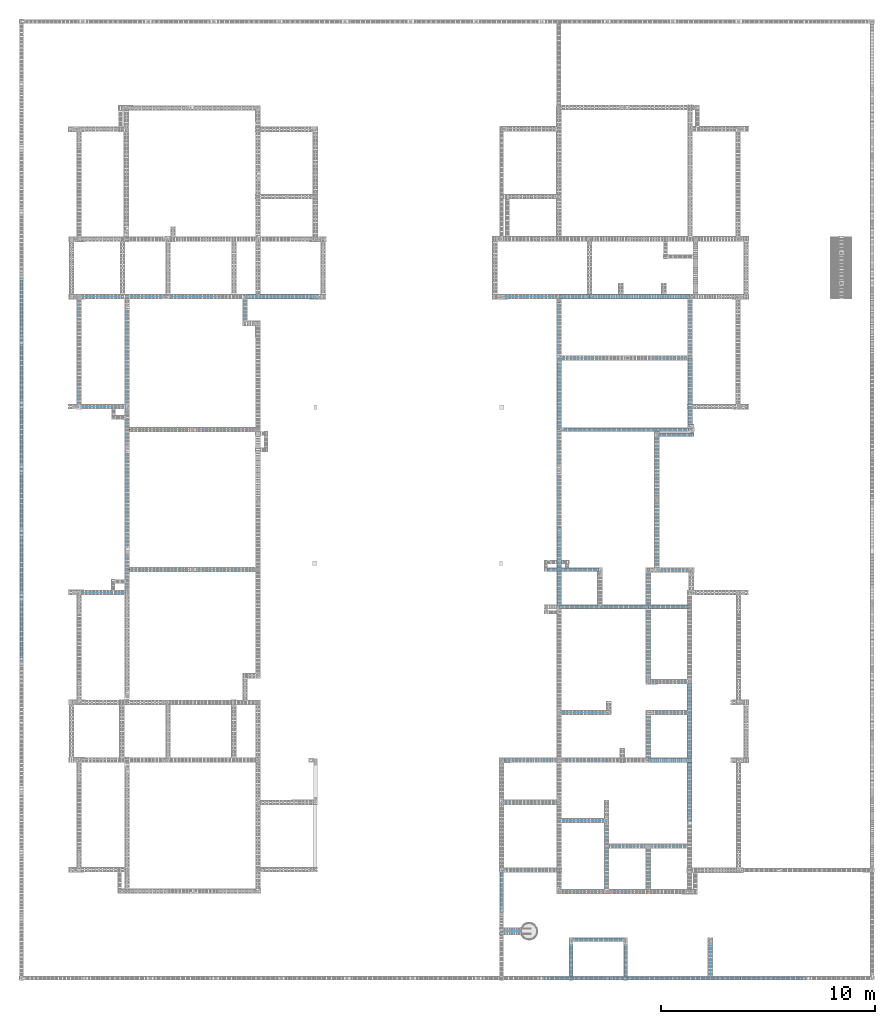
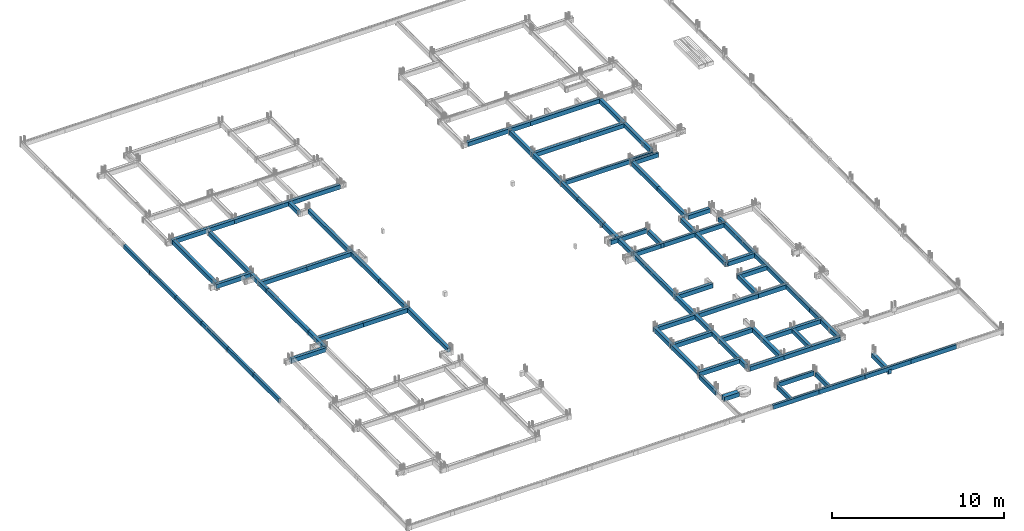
# One storey, part 3 of 150: 84 beams.
"""IFC4 building model written with IfcOpenShell, lengths in centimetres."""

from ifc_helpers import new_model, si_unit, derived_unit, frame, origin_with_axes, origin_2d_with_axis, place, context, project, spatial, rectangle, extrude, material, element, save


model = new_model("IFC4")

# Units and contexts
model_context = context("Model", 3, precision=1e-05, world=origin_with_axes(), identifier="Body")
ifc_project = project(units=[si_unit("LENGTHUNIT", "METRE", prefix="CENTI"), si_unit("VOLUMEUNIT", "CUBIC_METRE"), si_unit("AREAUNIT", "SQUARE_METRE"), si_unit("POWERUNIT", "WATT"), si_unit("LUMINOUSFLUXUNIT", "LUMEN"), si_unit("ELECTRICCURRENTUNIT", "AMPERE"), si_unit("PRESSUREUNIT", "PASCAL", prefix="KILO"), si_unit("MASSUNIT", "GRAM", prefix="KILO"), si_unit("PLANEANGLEUNIT", "RADIAN"), derived_unit("VOLUMETRICFLOWRATEUNIT", [(si_unit("LENGTHUNIT", "METRE"), 3), (si_unit("TIMEUNIT", "SECOND"), -1)])], contexts=[model_context])

# Site, building, storey
site_placement = place(None, frame((-4000.0, 0.0, 0.0), z_axis=(0.0, 0.0, 1.0), x_axis=(1.0, 0.0, 0.0)))
site = spatial("IfcSite", under=ifc_project, at=site_placement, Name="PADRÃO")
building_placement = place(site_placement, frame((0.0, 0.0, -14.0)))
building = spatial("IfcBuilding", under=site, at=building_placement, Name="CRECHE PRÉ-ESCOLA TIPO 2")
placement = place(building_placement, origin_with_axes())
storey_placement = place(placement, frame((0.0, 0.0, 30.0), z_axis=(0.0, 0.0, 1.0), x_axis=(1.0, 0.0, 0.0)))
storey = spatial("IfcBuildingStorey", under=building, at=storey_placement, Name="VIGA BALDRAME", CompositionType="ELEMENT", Elevation=16.0)

# Beams
ifc_material = material(Name="Concreto")
beam_1_placement = place(storey_placement, frame((476.0, 3200.02, 0.0), z_axis=(0.0, 0.0, 1.0), x_axis=(1.0, 0.0, 0.0)))
element("IfcBeam", 1, at=beam_1_placement, inside=storey, material=ifc_material, Name="V113", context=model_context, shape_type="SolidModel", body=[
    extrude(rectangle(XDim=20.0, YDim=30.0, at=origin_2d_with_axis()), frame((-209.0, 0.0, -15.0), z_axis=(1.0, 0.0, 0.0), x_axis=(0.0, 1.0, 0.0)), (0.0, 0.0, 1.0), 418.0),
])
beam_2_placement = place(storey_placement, frame((1227.125, 3200.02, 0.0), z_axis=(0.0, 0.0, 1.0), x_axis=(1.0, 0.0, 0.0)))
element("IfcBeam", 2, at=beam_2_placement, inside=storey, material=ifc_material, Name="V113", context=model_context, shape_type="SolidModel", body=[
    extrude(rectangle(XDim=20.0, YDim=30.0, at=origin_2d_with_axis()), frame((-166.125, 0.0, -15.0), z_axis=(1.0, 0.0, 0.0), x_axis=(0.0, 1.0, 0.0)), (0.0, 0.0, 1.0), 332.25),
])
beam_3_placement = place(storey_placement, frame((873.0, 3200.02, 0.0), z_axis=(0.0, 0.0, 1.0), x_axis=(1.0, 0.0, 0.0)))
element("IfcBeam", 3, at=beam_3_placement, inside=storey, material=ifc_material, Name="V113", context=model_context, shape_type="SolidModel", body=[
    extrude(rectangle(XDim=20.0, YDim=30.0, at=origin_2d_with_axis()), frame((-188.0, 0.0, -15.0), z_axis=(1.0, 0.0, 0.0), x_axis=(0.0, 1.0, 0.0)), (0.0, 0.0, 1.0), 376.0),
])
beam_4_placement = place(storey_placement, frame((2386.13, 3200.02, 0.0), z_axis=(0.0, 0.0, 1.0), x_axis=(1.0, 0.0, 0.0)))
element("IfcBeam", 4, at=beam_4_placement, inside=storey, material=ifc_material, Name="V114", context=model_context, shape_type="SolidModel", body=[
    extrude(rectangle(XDim=20.0, YDim=30.0, at=origin_2d_with_axis()), frame((-137.37, 0.0, -15.0), z_axis=(1.0, 0.0, 0.0), x_axis=(0.0, 1.0, 0.0)), (0.0, 0.0, 1.0), 274.74),
])
beam_5_placement = place(storey_placement, frame((2595.75, 3200.02, 0.0), z_axis=(0.0, 0.0, 1.0), x_axis=(1.0, 0.0, 0.0)))
element("IfcBeam", 5, at=beam_5_placement, inside=storey, material=ifc_material, Name="V114", context=model_context, shape_type="SolidModel", body=[
    extrude(rectangle(XDim=20.0, YDim=30.0, at=origin_2d_with_axis()), frame((-72.25, 0.0, -15.0), z_axis=(1.0, 0.0, 0.0), x_axis=(0.0, 1.0, 0.0)), (0.0, 0.0, 1.0), 144.5),
])
beam_6_placement = place(storey_placement, frame((2903.25, 3200.02, 0.0), z_axis=(0.0, 0.0, 1.0), x_axis=(1.0, 0.0, 0.0)))
element("IfcBeam", 6, at=beam_6_placement, inside=storey, material=ifc_material, Name="V114", context=model_context, shape_type="SolidModel", body=[
    extrude(rectangle(XDim=20.0, YDim=30.0, at=origin_2d_with_axis()), frame((-235.25, 0.0, -15.0), z_axis=(1.0, 0.0, 0.0), x_axis=(0.0, 1.0, 0.0)), (0.0, 0.0, 1.0), 470.5),
])
beam_7_placement = place(storey_placement, frame((2989.75, 2912.52, 0.0), z_axis=(0.0, 0.0, 1.0), x_axis=(1.0, 0.0, 0.0)))
element("IfcBeam", 7, at=beam_7_placement, inside=storey, material=ifc_material, Name="V116", context=model_context, shape_type="SolidModel", body=[
    extrude(rectangle(XDim=20.0, YDim=30.0, at=origin_2d_with_axis()), frame((-155.75, 0.0, -15.0), z_axis=(1.0, 0.0, 0.0), x_axis=(0.0, 1.0, 0.0)), (0.0, 0.0, 1.0), 311.5),
])
beam_8_placement = place(storey_placement, frame((2682.25, 2912.52, 0.0), z_axis=(0.0, 0.0, 1.0), x_axis=(1.0, 0.0, 0.0)))
element("IfcBeam", 8, at=beam_8_placement, inside=storey, material=ifc_material, Name="V116", context=model_context, shape_type="SolidModel", body=[
    extrude(rectangle(XDim=20.0, YDim=30.0, at=origin_2d_with_axis()), frame((-151.75, 0.0, -15.0), z_axis=(1.0, 0.0, 0.0), x_axis=(0.0, 1.0, 0.0)), (0.0, 0.0, 1.0), 303.5),
])
beam_9_placement = place(storey_placement, frame((382.345, 2685.01, 0.0), z_axis=(0.0, 0.0, 1.0), x_axis=(1.0, 0.0, 0.0)))
element("IfcBeam", 9, at=beam_9_placement, inside=storey, material=ifc_material, Name="V117", context=model_context, shape_type="SolidModel", body=[
    extrude(rectangle(XDim=20.0, YDim=30.0, at=origin_2d_with_axis()), frame((-114.345, 0.0, -15.0), z_axis=(1.0, 0.0, 0.0), x_axis=(0.0, 1.0, 0.0)), (0.0, 0.0, 1.0), 228.69),
])
beam_10_placement = place(storey_placement, frame((657.54, 2577.5, 0.0), z_axis=(0.0, 0.0, 1.0), x_axis=(1.0, 0.0, 0.0)))
element("IfcBeam", 10, at=beam_10_placement, inside=storey, material=ifc_material, Name="V120", context=model_context, shape_type="SolidModel", body=[
    extrude(rectangle(XDim=20.0, YDim=30.0, at=origin_2d_with_axis()), frame((-153.85, 0.0, -15.0), z_axis=(1.0, 0.0, 0.0), x_axis=(0.0, 1.0, 0.0)), (0.0, 0.0, 1.0), 307.7),
])
beam_11_placement = place(storey_placement, frame((968.055, 2577.5, 0.0), z_axis=(0.0, 0.0, 1.0), x_axis=(1.0, 0.0, 0.0)))
element("IfcBeam", 11, at=beam_11_placement, inside=storey, material=ifc_material, Name="V120", context=model_context, shape_type="SolidModel", body=[
    extrude(rectangle(XDim=20.0, YDim=30.0, at=origin_2d_with_axis()), frame((-156.665, 0.0, -15.0), z_axis=(1.0, 0.0, 0.0), x_axis=(0.0, 1.0, 0.0)), (0.0, 0.0, 1.0), 313.33),
])
beam_12_placement = place(storey_placement, frame((3056.26, 2577.52, 0.0), z_axis=(0.0, 0.0, 1.0), x_axis=(1.0, 0.0, 0.0)))
element("IfcBeam", 12, at=beam_12_placement, inside=storey, material=ifc_material, Name="V122", context=model_context, shape_type="SolidModel", body=[
    extrude(rectangle(XDim=15.0, YDim=30.0, at=origin_2d_with_axis()), frame((-76.76, 0.0, -15.0), z_axis=(1.0, 0.0, 0.0), x_axis=(0.0, 1.0, 0.0)), (0.0, 0.0, 1.0), 153.52),
])
beam_13_placement = place(storey_placement, frame((2763.0, 2577.52, 0.0), z_axis=(0.0, 0.0, 1.0), x_axis=(1.0, 0.0, 0.0)))
element("IfcBeam", 13, at=beam_13_placement, inside=storey, material=ifc_material, Name="V122", context=model_context, shape_type="SolidModel", body=[
    extrude(rectangle(XDim=15.0, YDim=30.0, at=origin_2d_with_axis()), frame((-216.5, 0.0, -15.0), z_axis=(1.0, 0.0, 0.0), x_axis=(0.0, 1.0, 0.0)), (0.0, 0.0, 1.0), 433.0),
])
beam_14_placement = place(storey_placement, frame((3070.76, 2553.52, 0.0), z_axis=(0.0, 0.0, 1.0), x_axis=(1.0, 0.0, 0.0)))
element("IfcBeam", 14, at=beam_14_placement, inside=storey, material=ifc_material, Name="V123", context=model_context, shape_type="SolidModel", body=[
    extrude(rectangle(XDim=14.0, YDim=30.0, at=origin_2d_with_axis()), frame((-84.26, 0.0, -15.0), z_axis=(1.0, 0.0, 0.0), x_axis=(0.0, 1.0, 0.0)), (0.0, 0.0, 1.0), 168.52),
])
beam_15_placement = place(storey_placement, frame((968.055, 1922.5, 0.0), z_axis=(0.0, 0.0, 1.0), x_axis=(1.0, 0.0, 0.0)))
element("IfcBeam", 15, at=beam_15_placement, inside=storey, material=ifc_material, Name="V125", context=model_context, shape_type="SolidModel", body=[
    extrude(rectangle(XDim=20.0, YDim=30.0, at=origin_2d_with_axis()), frame((-156.665, 0.0, -15.0), z_axis=(1.0, 0.0, 0.0), x_axis=(0.0, 1.0, 0.0)), (0.0, 0.0, 1.0), 313.33),
])
beam_16_placement = place(storey_placement, frame((657.54, 1922.5, 0.0), z_axis=(0.0, 0.0, 1.0), x_axis=(1.0, 0.0, 0.0)))
element("IfcBeam", 16, at=beam_16_placement, inside=storey, material=ifc_material, Name="V125", context=model_context, shape_type="SolidModel", body=[
    extrude(rectangle(XDim=20.0, YDim=30.0, at=origin_2d_with_axis()), frame((-153.85, 0.0, -15.0), z_axis=(1.0, 0.0, 0.0), x_axis=(0.0, 1.0, 0.0)), (0.0, 0.0, 1.0), 307.7),
])
beam_17_placement = place(storey_placement, frame((2590.625, 1922.52, 0.0), z_axis=(0.0, 0.0, 1.0), x_axis=(1.0, 0.0, 0.0)))
element("IfcBeam", 17, at=beam_17_placement, inside=storey, material=ifc_material, Name="V127", context=model_context, shape_type="SolidModel", body=[
    extrude(rectangle(XDim=15.0, YDim=30.0, at=origin_2d_with_axis()), frame((-121.125, 0.0, -15.0), z_axis=(1.0, 0.0, 0.0), x_axis=(0.0, 1.0, 0.0)), (0.0, 0.0, 1.0), 242.25),
])
beam_18_placement = place(storey_placement, frame((3060.26, 1920.02, 0.0), z_axis=(0.0, 0.0, 1.0), x_axis=(1.0, 0.0, 0.0)))
element("IfcBeam", 18, at=beam_18_placement, inside=storey, material=ifc_material, Name="V128", context=model_context, shape_type="SolidModel", body=[
    extrude(rectangle(XDim=20.0, YDim=30.0, at=origin_2d_with_axis()), frame((-72.76, 0.0, -15.0), z_axis=(1.0, 0.0, 0.0), x_axis=(0.0, 1.0, 0.0)), (0.0, 0.0, 1.0), 145.52),
])
beam_19_placement = place(storey_placement, frame((381.345, 1815.0, 0.0), z_axis=(0.0, 0.0, 1.0), x_axis=(1.0, 0.0, 0.0)))
element("IfcBeam", 19, at=beam_19_placement, inside=storey, material=ifc_material, Name="V130", context=model_context, shape_type="SolidModel", body=[
    extrude(rectangle(XDim=20.0, YDim=30.0, at=origin_2d_with_axis()), frame((-115.345, 0.0, -15.0), z_axis=(1.0, 0.0, 0.0), x_axis=(0.0, 1.0, 0.0)), (0.0, 0.0, 1.0), 230.69),
])
beam_20_placement = place(storey_placement, frame((3039.62, 1747.84, 0.0), z_axis=(0.0, 0.0, 1.0), x_axis=(1.0, 0.0, 0.0)))
element("IfcBeam", 20, at=beam_20_placement, inside=storey, material=ifc_material, Name="V133", context=model_context, shape_type="SolidModel", body=[
    extrude(rectangle(XDim=15.0, YDim=30.0, at=origin_2d_with_axis()), frame((-96.38, 0.0, -15.0), z_axis=(1.0, 0.0, 0.0), x_axis=(0.0, 1.0, 0.0)), (0.0, 0.0, 1.0), 192.76),
])
beam_21_placement = place(storey_placement, frame((2734.62, 1747.84, 0.0), z_axis=(0.0, 0.0, 1.0), x_axis=(1.0, 0.0, 0.0)))
element("IfcBeam", 21, at=beam_21_placement, inside=storey, material=ifc_material, Name="V133", context=model_context, shape_type="SolidModel", body=[
    extrude(rectangle(XDim=15.0, YDim=30.0, at=origin_2d_with_axis()), frame((-208.62, 0.0, -15.0), z_axis=(1.0, 0.0, 0.0), x_axis=(0.0, 1.0, 0.0)), (0.0, 0.0, 1.0), 417.24),
])
beam_22_placement = place(storey_placement, frame((3040.87, 1397.51, 0.0), z_axis=(0.0, 0.0, 1.0), x_axis=(1.0, 0.0, 0.0)))
element("IfcBeam", 22, at=beam_22_placement, inside=storey, material=ifc_material, Name="V135", context=model_context, shape_type="SolidModel", body=[
    extrude(rectangle(XDim=20.0, YDim=30.0, at=origin_2d_with_axis()), frame((-90.63, 0.0, -15.0), z_axis=(1.0, 0.0, 0.0), x_axis=(0.0, 1.0, 0.0)), (0.0, 0.0, 1.0), 181.26),
])
beam_23_placement = place(storey_placement, frame((2647.62, 1252.51, 0.0), z_axis=(0.0, 0.0, 1.0), x_axis=(1.0, 0.0, 0.0)))
element("IfcBeam", 23, at=beam_23_placement, inside=storey, material=ifc_material, Name="V137", context=model_context, shape_type="SolidModel", body=[
    extrude(rectangle(XDim=20.0, YDim=30.0, at=origin_2d_with_axis()), frame((-117.12, 0.0, -15.0), z_axis=(1.0, 0.0, 0.0), x_axis=(0.0, 1.0, 0.0)), (0.0, 0.0, 1.0), 234.24),
])
beam_24_placement = place(storey_placement, frame((3031.12, 1252.52, 0.0), z_axis=(0.0, 0.0, 1.0), x_axis=(1.0, 0.0, 0.0)))
element("IfcBeam", 24, at=beam_24_placement, inside=storey, material=ifc_material, Name="V138", context=model_context, shape_type="SolidModel", body=[
    extrude(rectangle(XDim=20.0, YDim=30.0, at=origin_2d_with_axis()), frame((-94.88, 0.0, -15.0), z_axis=(1.0, 0.0, 0.0), x_axis=(0.0, 1.0, 0.0)), (0.0, 0.0, 1.0), 189.76),
])
beam_25_placement = place(storey_placement, frame((2403.995, 1030.01, 0.0), z_axis=(0.0, 0.0, 1.0), x_axis=(1.0, 0.0, 0.0)))
element("IfcBeam", 25, at=beam_25_placement, inside=storey, material=ifc_material, Name="V142", context=model_context, shape_type="SolidModel", body=[
    extrude(rectangle(XDim=20.0, YDim=30.0, at=origin_2d_with_axis()), frame((-142.505, 0.0, -15.0), z_axis=(1.0, 0.0, 0.0), x_axis=(0.0, 1.0, 0.0)), (0.0, 0.0, 1.0), 285.01),
])
beam_26_placement = place(storey_placement, frame((3044.62, 1030.01, 0.0), z_axis=(0.0, 0.0, 1.0), x_axis=(1.0, 0.0, 0.0)))
element("IfcBeam", 26, at=beam_26_placement, inside=storey, material=ifc_material, Name="V143", context=model_context, shape_type="SolidModel", body=[
    extrude(rectangle(XDim=20.0, YDim=30.0, at=origin_2d_with_axis()), frame((-101.38, 0.0, -15.0), z_axis=(1.0, 0.0, 0.0), x_axis=(0.0, 1.0, 0.0)), (0.0, 0.0, 1.0), 202.76),
])
beam_27_placement = place(storey_placement, frame((2729.87, 1030.01, 0.0), z_axis=(0.0, 0.0, 1.0), x_axis=(1.0, 0.0, 0.0)))
element("IfcBeam", 27, at=beam_27_placement, inside=storey, material=ifc_material, Name="V143", context=model_context, shape_type="SolidModel", body=[
    extrude(rectangle(XDim=20.0, YDim=30.0, at=origin_2d_with_axis()), frame((-213.37, 0.0, -15.0), z_axis=(1.0, 0.0, 0.0), x_axis=(0.0, 1.0, 0.0)), (0.0, 0.0, 1.0), 426.74),
])
beam_28_placement = place(storey_placement, frame((2388.995, 832.52, 0.0), z_axis=(0.0, 0.0, 1.0), x_axis=(1.0, 0.0, 0.0)))
element("IfcBeam", 28, at=beam_28_placement, inside=storey, material=ifc_material, Name="V146", context=model_context, shape_type="SolidModel", body=[
    extrude(rectangle(XDim=20.0, YDim=30.0, at=origin_2d_with_axis()), frame((-127.505, 0.0, -15.0), z_axis=(1.0, 0.0, 0.0), x_axis=(0.0, 1.0, 0.0)), (0.0, 0.0, 1.0), 255.01),
])
beam_29_placement = place(storey_placement, frame((2638.26, 747.59, 0.0), z_axis=(0.0, 0.0, 1.0), x_axis=(1.0, 0.0, 0.0)))
element("IfcBeam", 29, at=beam_29_placement, inside=storey, material=ifc_material, Name="V147", context=model_context, shape_type="SolidModel", body=[
    extrude(rectangle(XDim=20.0, YDim=30.0, at=origin_2d_with_axis()), frame((-102.26, 0.0, -15.0), z_axis=(1.0, 0.0, 0.0), x_axis=(0.0, 1.0, 0.0)), (0.0, 0.0, 1.0), 204.52),
])
beam_30_placement = place(storey_placement, frame((2850.955, 627.58, 0.0), z_axis=(0.0, 0.0, 1.0), x_axis=(1.0, 0.0, 0.0)))
element("IfcBeam", 30, at=beam_30_placement, inside=storey, material=ifc_material, Name="V148", context=model_context, shape_type="SolidModel", body=[
    extrude(rectangle(XDim=20.0, YDim=30.0, at=origin_2d_with_axis()), frame((-92.495, 0.0, -15.0), z_axis=(1.0, 0.0, 0.0), x_axis=(0.0, 1.0, 0.0)), (0.0, 0.0, 1.0), 184.99),
])
beam_31_placement = place(storey_placement, frame((3039.725, 627.58, 0.0), z_axis=(0.0, 0.0, 1.0), x_axis=(1.0, 0.0, 0.0)))
element("IfcBeam", 31, at=beam_31_placement, inside=storey, material=ifc_material, Name="V148", context=model_context, shape_type="SolidModel", body=[
    extrude(rectangle(XDim=20.0, YDim=30.0, at=origin_2d_with_axis()), frame((-96.275, 0.0, -15.0), z_axis=(1.0, 0.0, 0.0), x_axis=(0.0, 1.0, 0.0)), (0.0, 0.0, 1.0), 192.55),
])
beam_32_placement = place(storey_placement, frame((2386.74, 515.02, 0.0), z_axis=(0.0, 0.0, 1.0), x_axis=(1.0, 0.0, 0.0)))
element("IfcBeam", 32, at=beam_32_placement, inside=storey, material=ifc_material, Name="V151", context=model_context, shape_type="SolidModel", body=[
    extrude(rectangle(XDim=20.0, YDim=30.0, at=origin_2d_with_axis()), frame((-139.26, 0.0, -15.0), z_axis=(1.0, 0.0, 0.0), x_axis=(0.0, 1.0, 0.0)), (0.0, 0.0, 1.0), 278.52),
])
beam_33_placement = place(storey_placement, frame((2643.48, 415.01, 0.0), z_axis=(0.0, 0.0, 1.0), x_axis=(1.0, 0.0, 0.0)))
element("IfcBeam", 33, at=beam_33_placement, inside=storey, material=ifc_material, Name="V155", context=model_context, shape_type="SolidModel", body=[
    extrude(rectangle(XDim=20.0, YDim=30.0, at=origin_2d_with_axis()), frame((-112.98, 0.0, -15.0), z_axis=(1.0, 0.0, 0.0), x_axis=(0.0, 1.0, 0.0)), (0.0, 0.0, 1.0), 225.96),
])
beam_34_placement = place(storey_placement, frame((2946.23, 415.01, 0.0), z_axis=(0.0, 0.0, 1.0), x_axis=(1.0, 0.0, 0.0)))
element("IfcBeam", 34, at=beam_34_placement, inside=storey, material=ifc_material, Name="V155", context=model_context, shape_type="SolidModel", body=[
    extrude(rectangle(XDim=20.0, YDim=30.0, at=origin_2d_with_axis()), frame((-189.77, 0.0, -15.0), z_axis=(1.0, 0.0, 0.0), x_axis=(0.0, 1.0, 0.0)), (0.0, 0.0, 1.0), 379.54),
])
beam_35_placement = place(storey_placement, frame((2298.33950378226, 229.39, 0.0), z_axis=(0.0, 0.0, 1.0), x_axis=(1.0, 0.0, 0.0)))
element("IfcBeam", 35, at=beam_35_placement, inside=storey, material=ifc_material, Name="V156", context=model_context, shape_type="SolidModel", body=[
    extrude(rectangle(XDim=30.0, YDim=30.0, at=origin_2d_with_axis()), frame((-49.8595037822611, 0.0, -15.0), z_axis=(1.0, 0.0, 0.0), x_axis=(0.0, 1.0, 0.0)), (0.0, 0.0, 1.0), 99.7190075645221),
])
beam_36_placement = place(storey_placement, frame((2709.475, 190.0, 0.0), z_axis=(0.0, 0.0, 1.0), x_axis=(1.0, 0.0, 0.0)))
element("IfcBeam", 36, at=beam_36_placement, inside=storey, material=ifc_material, Name="V157", context=model_context, shape_type="SolidModel", body=[
    extrude(rectangle(XDim=15.0, YDim=30.0, at=origin_2d_with_axis()), frame((-121.015, 0.0, -15.0), z_axis=(1.0, 0.0, 0.0), x_axis=(0.0, 1.0, 0.0)), (0.0, 0.0, 1.0), 242.03),
])
for number, where, z_axis, x_axis, name in (
    (37, (2914.0, 9.5, 0.0), (0.0, 0.0, 1.0), (1.0, 0.0, 0.0), "V158"),
    (38, (3221.0, 9.5, 0.0), (0.0, 0.0, 1.0), (1.0, 0.0, 0.0), "V158"),
    (39, (3528.0, 9.5, 0.0), (0.0, 0.0, 1.0), (1.0, 0.0, 0.0), "V158"),
    (40, (2607.0, 9.5, 0.0), (0.0, 0.0, 1.0), (1.0, 0.0, 0.0), "V158"),
):
    element("IfcBeam", number, at=place(storey_placement, frame(where, z_axis=z_axis, x_axis=x_axis)), inside=storey, material=ifc_material, Name=name, context=model_context, shape_type="SolidModel", body=[
        extrude(rectangle(XDim=15.0, YDim=30.0, at=origin_2d_with_axis()), frame((-153.5, 0.0, -15.0), z_axis=(1.0, 0.0, 0.0), x_axis=(0.0, 1.0, 0.0)), (0.0, 0.0, 1.0), 307.0),
    ])
for number, where, z_axis, x_axis, name in (
    (41, (9.0, 3144.5, 0.0), (0.0, 0.0, 1.0), (1.0, 0.0, 0.0), "V159"),
    (42, (9.0, 2844.5, 0.0), (0.0, 0.0, 1.0), (1.0, 0.0, 0.0), "V159"),
    (43, (9.0, 2544.5, 0.0), (0.0, 0.0, 1.0), (1.0, 0.0, 0.0), "V159"),
    (44, (9.0, 1644.5, 0.0), (0.0, 0.0, 1.0), (1.0, 0.0, 0.0), "V159"),
    (45, (9.0, 1944.5, 0.0), (0.0, 0.0, 1.0), (1.0, 0.0, 0.0), "V159"),
    (46, (9.0, 2244.5, 0.0), (0.0, 0.0, 1.0), (1.0, 0.0, 0.0), "V159"),
):
    element("IfcBeam", number, at=place(storey_placement, frame(where, z_axis=z_axis, x_axis=x_axis)), inside=storey, material=ifc_material, Name=name, context=model_context, shape_type="SolidModel", body=[
        extrude(rectangle(XDim=15.0, YDim=30.0, at=origin_2d_with_axis()), frame((0.0, -150.0, -15.0), z_axis=(0.0, 1.0, 0.0), x_axis=(-1.0, 0.0, 0.0)), (0.0, 0.0, 1.0), 300.0),
    ])
beam_37_placement = place(storey_placement, frame((279.0, 2942.005, 0.0), z_axis=(0.0, 0.0, 1.0), x_axis=(1.0, 0.0, 0.0)))
element("IfcBeam", 47, at=beam_37_placement, inside=storey, material=ifc_material, Name="V163", context=model_context, shape_type="SolidModel", body=[
    extrude(rectangle(XDim=20.0, YDim=30.0, at=origin_2d_with_axis()), frame((0.0, -249.995, -15.0), z_axis=(0.0, 1.0, 0.0), x_axis=(-1.0, 0.0, 0.0)), (0.0, 0.0, 1.0), 499.99),
])
beam_38_placement = place(storey_placement, frame((503.69, 1915.0, 0.0), z_axis=(0.0, 0.0, 1.0), x_axis=(1.0, 0.0, 0.0)))
element("IfcBeam", 48, at=beam_38_placement, inside=storey, material=ifc_material, Name="V171", context=model_context, shape_type="SolidModel", body=[
    extrude(rectangle(XDim=20.0, YDim=30.0, at=origin_2d_with_axis()), frame((0.0, -93.5, -15.0), z_axis=(0.0, 1.0, 0.0), x_axis=(-1.0, 0.0, 0.0)), (0.0, 0.0, 1.0), 187.0),
])
beam_39_placement = place(storey_placement, frame((503.69, 2250.0, 0.0), z_axis=(0.0, 0.0, 1.0), x_axis=(1.0, 0.0, 0.0)))
element("IfcBeam", 49, at=beam_39_placement, inside=storey, material=ifc_material, Name="V171", context=model_context, shape_type="SolidModel", body=[
    extrude(rectangle(XDim=20.0, YDim=30.0, at=origin_2d_with_axis()), frame((0.0, -241.5, -15.0), z_axis=(0.0, 1.0, 0.0), x_axis=(-1.0, 0.0, 0.0)), (0.0, 0.0, 1.0), 483.0),
])
beam_40_placement = place(storey_placement, frame((503.69, 2584.255, 0.0), z_axis=(0.0, 0.0, 1.0), x_axis=(1.0, 0.0, 0.0)))
element("IfcBeam", 50, at=beam_40_placement, inside=storey, material=ifc_material, Name="V171", context=model_context, shape_type="SolidModel", body=[
    extrude(rectangle(XDim=20.0, YDim=30.0, at=origin_2d_with_axis()), frame((0.0, -92.755, -15.0), z_axis=(0.0, 1.0, 0.0), x_axis=(-1.0, 0.0, 0.0)), (0.0, 0.0, 1.0), 185.51),
])
beam_41_placement = place(storey_placement, frame((503.69, 2919.255, 0.0), z_axis=(0.0, 0.0, 1.0), x_axis=(1.0, 0.0, 0.0)))
element("IfcBeam", 51, at=beam_41_placement, inside=storey, material=ifc_material, Name="V171", context=model_context, shape_type="SolidModel", body=[
    extrude(rectangle(XDim=20.0, YDim=30.0, at=origin_2d_with_axis()), frame((0.0, -242.245, -15.0), z_axis=(0.0, 1.0, 0.0), x_axis=(-1.0, 0.0, 0.0)), (0.0, 0.0, 1.0), 484.49),
])
beam_42_placement = place(storey_placement, frame((1056.2, 3137.745, 0.0), z_axis=(0.0, 0.0, 1.0), x_axis=(1.0, 0.0, 0.0)))
element("IfcBeam", 52, at=beam_42_placement, inside=storey, material=ifc_material, Name="V181", context=model_context, shape_type="SolidModel", body=[
    extrude(rectangle(XDim=20.0, YDim=30.0, at=origin_2d_with_axis()), frame((0.0, -52.745, -15.0), z_axis=(0.0, 1.0, 0.0), x_axis=(-1.0, 0.0, 0.0)), (0.0, 0.0, 1.0), 105.49),
])
beam_43_placement = place(storey_placement, frame((1116.0, 2086.25, 0.0), z_axis=(0.0, 0.0, 1.0), x_axis=(1.0, 0.0, 0.0)))
element("IfcBeam", 53, at=beam_43_placement, inside=storey, material=ifc_material, Name="V183", context=model_context, shape_type="SolidModel", body=[
    extrude(rectangle(XDim=20.0, YDim=30.0, at=origin_2d_with_axis()), frame((0.0, -163.75, -15.0), z_axis=(0.0, 1.0, 0.0), x_axis=(-1.0, 0.0, 0.0)), (0.0, 0.0, 1.0), 327.5),
])
beam_44_placement = place(storey_placement, frame((1116.0, 1684.0, 0.0), z_axis=(0.0, 0.0, 1.0), x_axis=(1.0, 0.0, 0.0)))
element("IfcBeam", 54, at=beam_44_placement, inside=storey, material=ifc_material, Name="V183", context=model_context, shape_type="SolidModel", body=[
    extrude(rectangle(XDim=20.0, YDim=30.0, at=origin_2d_with_axis()), frame((0.0, -238.5, -15.0), z_axis=(0.0, 1.0, 0.0), x_axis=(1.0, 0.0, 0.0)), (0.0, 0.0, 1.0), 477.0),
])
beam_45_placement = place(storey_placement, frame((1116.0, 2413.75, 0.0), z_axis=(0.0, 0.0, 1.0), x_axis=(1.0, 0.0, 0.0)))
element("IfcBeam", 55, at=beam_45_placement, inside=storey, material=ifc_material, Name="V183", context=model_context, shape_type="SolidModel", body=[
    extrude(rectangle(XDim=20.0, YDim=30.0, at=origin_2d_with_axis()), frame((0.0, -163.75, -15.0), z_axis=(0.0, 1.0, 0.0), x_axis=(-1.0, 0.0, 0.0)), (0.0, 0.0, 1.0), 327.5),
])
beam_46_placement = place(storey_placement, frame((1116.0, 2823.5, 0.0), z_axis=(0.0, 0.0, 1.0), x_axis=(1.0, 0.0, 0.0)))
element("IfcBeam", 56, at=beam_46_placement, inside=storey, material=ifc_material, Name="V183", context=model_context, shape_type="SolidModel", body=[
    extrude(rectangle(XDim=20.0, YDim=30.0, at=origin_2d_with_axis()), frame((0.0, -246.0, -15.0), z_axis=(0.0, 1.0, 0.0), x_axis=(-1.0, 0.0, 0.0)), (0.0, 0.0, 1.0), 492.0),
])
beam_47_placement = place(storey_placement, frame((2255.98, 412.77, -20.0), z_axis=(0.0, 0.0, 1.0), x_axis=(1.0, 0.0, 0.0)))
element("IfcBeam", 57, at=beam_47_placement, inside=storey, material=ifc_material, Name="V189", context=model_context, shape_type="SolidModel", body=[
    extrude(rectangle(XDim=15.0, YDim=30.0, at=origin_2d_with_axis()), frame((0.0, -93.75, -15.0), z_axis=(0.0, 1.0, 0.0), x_axis=(1.0, 0.0, 0.0)), (0.0, 0.0, 1.0), 187.5),
])
beam_48_placement = place(storey_placement, frame((2255.9825, 676.52, 0.0), z_axis=(0.0, 0.0, 1.0), x_axis=(1.0, 0.0, 0.0)))
element("IfcBeam", 58, at=beam_48_placement, inside=storey, material=ifc_material, Name="V190", context=model_context, shape_type="SolidModel", body=[
    extrude(rectangle(XDim=20.0, YDim=30.0, at=origin_2d_with_axis()), frame((-0.0025, -156.0, -15.0), z_axis=(1.6025641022e-05, 1.0, 0.0), x_axis=(1.0, -1.6025641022e-05, 0.0)), (0.0, 0.0, 1.0), 312.0),
])
beam_49_placement = place(storey_placement, frame((2255.99, 935.515, 0.0), z_axis=(0.0, 0.0, 1.0), x_axis=(1.0, 0.0, 0.0)))
element("IfcBeam", 59, at=beam_49_placement, inside=storey, material=ifc_material, Name="V190", context=model_context, shape_type="SolidModel", body=[
    extrude(rectangle(XDim=20.0, YDim=30.0, at=origin_2d_with_axis()), frame((0.0, -102.995, -15.0), z_axis=(0.0, 1.0, 0.0), x_axis=(1.0, 0.0, 0.0)), (0.0, 0.0, 1.0), 205.99),
])
beam_50_placement = place(storey_placement, frame((2526.0, 934.52, 0.0), z_axis=(0.0, 0.0, 1.0), x_axis=(1.0, 0.0, 0.0)))
element("IfcBeam", 60, at=beam_50_placement, inside=storey, material=ifc_material, Name="V196", context=model_context, shape_type="SolidModel", body=[
    extrude(rectangle(XDim=20.0, YDim=30.0, at=origin_2d_with_axis()), frame((0.0, -93.0, -15.0), z_axis=(0.0, 1.0, 0.0), x_axis=(1.0, 0.0, 0.0)), (0.0, 0.0, 1.0), 186.0),
])
beam_51_placement = place(storey_placement, frame((2526.0, 639.77, 0.0), z_axis=(0.0, 0.0, 1.0), x_axis=(1.0, 0.0, 0.0)))
element("IfcBeam", 61, at=beam_51_placement, inside=storey, material=ifc_material, Name="V196", context=model_context, shape_type="SolidModel", body=[
    extrude(rectangle(XDim=20.0, YDim=30.0, at=origin_2d_with_axis()), frame((0.0, -201.75, -15.0), z_axis=(0.0, 1.0, 0.0), x_axis=(1.0, 0.0, 0.0)), (0.0, 0.0, 1.0), 403.5),
])
beam_52_placement = place(storey_placement, frame((2526.0, 1937.68, 0.0), z_axis=(0.0, 0.0, 1.0), x_axis=(1.0, 0.0, 0.0)))
element("IfcBeam", 62, at=beam_52_placement, inside=storey, material=ifc_material, Name="V196", context=model_context, shape_type="SolidModel", body=[
    extrude(rectangle(XDim=20.0, YDim=30.0, at=origin_2d_with_axis()), frame((0.0, -182.84, -15.0), z_axis=(0.0, 1.0, 0.0), x_axis=(1.0, 0.0, 0.0)), (0.0, 0.0, 1.0), 365.68),
])
beam_53_placement = place(storey_placement, frame((2526.0, 1496.46, 0.0), z_axis=(0.0, 0.0, 1.0), x_axis=(1.0, 0.0, 0.0)))
element("IfcBeam", 63, at=beam_53_placement, inside=storey, material=ifc_material, Name="V196", context=model_context, shape_type="SolidModel", body=[
    extrude(rectangle(XDim=20.0, YDim=30.0, at=origin_2d_with_axis()), frame((0.0, -244.38, -15.0), z_axis=(0.0, 1.0, 0.0), x_axis=(1.0, 0.0, 0.0)), (0.0, 0.0, 1.0), 488.76),
])
beam_54_placement = place(storey_placement, frame((2526.0, 1139.8, 0.0), z_axis=(0.0, 0.0, 1.0), x_axis=(1.0, 0.0, 0.0)))
element("IfcBeam", 64, at=beam_54_placement, inside=storey, material=ifc_material, Name="V196", context=model_context, shape_type="SolidModel", body=[
    extrude(rectangle(XDim=20.0, YDim=30.0, at=origin_2d_with_axis()), frame((0.0, -112.28, -15.0), z_axis=(0.0, 1.0, 0.0), x_axis=(1.0, 0.0, 0.0)), (0.0, 0.0, 1.0), 224.56),
])
beam_55_placement = place(storey_placement, frame((2526.0, 2484.395, 0.0), z_axis=(0.0, 0.0, 1.0), x_axis=(1.0, 0.0, 0.0)))
element("IfcBeam", 65, at=beam_55_placement, inside=storey, material=ifc_material, Name="V198", context=model_context, shape_type="SolidModel", body=[
    extrude(rectangle(XDim=20.0, YDim=30.0, at=origin_2d_with_axis()), frame((0.0, -94.125, -15.0), z_axis=(0.0, 1.0, 0.0), x_axis=(1.0, 0.0, 0.0)), (0.0, 0.0, 1.0), 188.25),
])
beam_56_placement = place(storey_placement, frame((2526.0, 2240.395, 0.0), z_axis=(0.0, 0.0, 1.0), x_axis=(1.0, 0.0, 0.0)))
element("IfcBeam", 66, at=beam_56_placement, inside=storey, material=ifc_material, Name="V198", context=model_context, shape_type="SolidModel", body=[
    extrude(rectangle(XDim=20.0, YDim=30.0, at=origin_2d_with_axis()), frame((0.0, -149.875, -15.0), z_axis=(0.0, 1.0, 0.0), x_axis=(1.0, 0.0, 0.0)), (0.0, 0.0, 1.0), 299.75),
])
beam_57_placement = place(storey_placement, frame((2526.0, 3042.77, 0.0), z_axis=(0.0, 0.0, 1.0), x_axis=(1.0, 0.0, 0.0)))
element("IfcBeam", 67, at=beam_57_placement, inside=storey, material=ifc_material, Name="V198", context=model_context, shape_type="SolidModel", body=[
    extrude(rectangle(XDim=20.0, YDim=30.0, at=origin_2d_with_axis()), frame((0.0, -131.75, -15.0), z_axis=(0.0, 1.0, 0.0), x_axis=(1.0, 0.0, 0.0)), (0.0, 0.0, 1.0), 263.5),
])
beam_58_placement = place(storey_placement, frame((2526.0, 2744.77, 0.0), z_axis=(0.0, 0.0, 1.0), x_axis=(1.0, 0.0, 0.0)))
element("IfcBeam", 68, at=beam_58_placement, inside=storey, material=ifc_material, Name="V198", context=model_context, shape_type="SolidModel", body=[
    extrude(rectangle(XDim=20.0, YDim=30.0, at=origin_2d_with_axis()), frame((0.0, -166.25, -15.0), z_axis=(0.0, 1.0, 0.0), x_axis=(1.0, 0.0, 0.0)), (0.0, 0.0, 1.0), 332.5),
])
beam_59_placement = place(storey_placement, frame((2581.46, 92.25, 0.0), z_axis=(0.0, 0.0, 1.0), x_axis=(1.0, 0.0, 0.0)))
element("IfcBeam", 69, at=beam_59_placement, inside=storey, material=ifc_material, Name="V201", context=model_context, shape_type="SolidModel", body=[
    extrude(rectangle(XDim=15.0, YDim=30.0, at=origin_2d_with_axis()), frame((0.0, -75.25, -15.0), z_axis=(0.0, 1.0, 0.0), x_axis=(1.0, 0.0, 0.0)), (0.0, 0.0, 1.0), 150.5),
])
beam_60_placement = place(storey_placement, frame((2748.46, 585.545, 0.0), z_axis=(0.0, 0.0, 1.0), x_axis=(1.0, 0.0, 0.0)))
element("IfcBeam", 70, at=beam_60_placement, inside=storey, material=ifc_material, Name="V203", context=model_context, shape_type="SolidModel", body=[
    extrude(rectangle(XDim=20.0, YDim=30.0, at=origin_2d_with_axis()), frame((0.0, -163.535, -15.0), z_axis=(0.0, 1.0, 0.0), x_axis=(1.0, 0.0, 0.0)), (0.0, 0.0, 1.0), 327.07),
])
beam_61_placement = place(storey_placement, frame((2716.25, 1819.93, 0.0), z_axis=(0.0, 0.0, 1.0), x_axis=(1.0, 0.0, 0.0)))
element("IfcBeam", 71, at=beam_61_placement, inside=storey, material=ifc_material, Name="V205", context=model_context, shape_type="SolidModel", body=[
    extrude(rectangle(XDim=20.0, YDim=30.0, at=origin_2d_with_axis()), frame((0.0, -79.59, -15.0), z_axis=(0.0, 1.0, 0.0), x_axis=(1.0, 0.0, 0.0)), (0.0, 0.0, 1.0), 159.18),
])
beam_62_placement = place(storey_placement, frame((2837.49, 92.25, 0.0), z_axis=(0.0, 0.0, 1.0), x_axis=(1.0, 0.0, 0.0)))
element("IfcBeam", 72, at=beam_62_placement, inside=storey, material=ifc_material, Name="V206", context=model_context, shape_type="SolidModel", body=[
    extrude(rectangle(XDim=15.0, YDim=30.0, at=origin_2d_with_axis()), frame((0.0, -75.25, -15.0), z_axis=(0.0, 1.0, 0.0), x_axis=(1.0, 0.0, 0.0)), (0.0, 0.0, 1.0), 150.5),
])
beam_63_placement = place(storey_placement, frame((2943.45, 517.795, 0.0), z_axis=(0.0, 0.0, 1.0), x_axis=(1.0, 0.0, 0.0)))
element("IfcBeam", 73, at=beam_63_placement, inside=storey, material=ifc_material, Name="V209", context=model_context, shape_type="SolidModel", body=[
    extrude(rectangle(XDim=20.0, YDim=30.0, at=origin_2d_with_axis()), frame((0.0, -102.785, -15.0), z_axis=(0.0, 1.0, 0.0), x_axis=(1.0, 0.0, 0.0)), (0.0, 0.0, 1.0), 205.57),
])
beam_64_placement = place(storey_placement, frame((2943.24, 1140.02, 0.0), z_axis=(0.0, 0.0, 1.0), x_axis=(1.0, 0.0, 0.0)))
element("IfcBeam", 74, at=beam_64_placement, inside=storey, material=ifc_material, Name="V210", context=model_context, shape_type="SolidModel", body=[
    extrude(rectangle(XDim=20.0, YDim=30.0, at=origin_2d_with_axis()), frame((0.0, -105.5, -15.0), z_axis=(0.0, 1.0, 0.0), x_axis=(1.0, 0.0, 0.0)), (0.0, 0.0, 1.0), 211.0),
])
beam_65_placement = place(storey_placement, frame((2943.24, 1832.43, 0.0), z_axis=(0.0, 0.0, 1.0), x_axis=(1.0, 0.0, 0.0)))
element("IfcBeam", 75, at=beam_65_placement, inside=storey, material=ifc_material, Name="V211", context=model_context, shape_type="SolidModel", body=[
    extrude(rectangle(XDim=20.0, YDim=30.0, at=origin_2d_with_axis()), frame((0.0, -77.59, -15.0), z_axis=(0.0, 1.0, 0.0), x_axis=(1.0, 0.0, 0.0)), (0.0, 0.0, 1.0), 155.18),
])
beam_66_placement = place(storey_placement, frame((2943.24, 1566.175, 0.0), z_axis=(0.0, 0.0, 1.0), x_axis=(1.0, 0.0, 0.0)))
element("IfcBeam", 76, at=beam_66_placement, inside=storey, material=ifc_material, Name="V211", context=model_context, shape_type="SolidModel", body=[
    extrude(rectangle(XDim=20.0, YDim=30.0, at=origin_2d_with_axis()), frame((0.0, -174.665, -15.0), z_axis=(0.0, 1.0, 0.0), x_axis=(1.0, 0.0, 0.0)), (0.0, 0.0, 1.0), 349.33),
])
beam_67_placement = place(storey_placement, frame((2983.0, 2400.145, 0.0), z_axis=(0.0, 0.0, 1.0), x_axis=(1.0, 0.0, 0.0)))
element("IfcBeam", 77, at=beam_67_placement, inside=storey, material=ifc_material, Name="V212", context=model_context, shape_type="SolidModel", body=[
    extrude(rectangle(XDim=20.0, YDim=30.0, at=origin_2d_with_axis()), frame((0.0, -148.375, -15.0), z_axis=(0.0, 1.0, 0.0), x_axis=(1.0, 0.0, 0.0)), (0.0, 0.0, 1.0), 296.75),
])
beam_68_placement = place(storey_placement, frame((2983.0, 2090.645, 0.0), z_axis=(0.0, 0.0, 1.0), x_axis=(1.0, 0.0, 0.0)))
element("IfcBeam", 78, at=beam_68_placement, inside=storey, material=ifc_material, Name="V212", context=model_context, shape_type="SolidModel", body=[
    extrude(rectangle(XDim=20.0, YDim=30.0, at=origin_2d_with_axis()), frame((0.0, -161.125, -15.0), z_axis=(0.0, 1.0, 0.0), x_axis=(1.0, 0.0, 0.0)), (0.0, 0.0, 1.0), 322.25),
])
beam_69_placement = place(storey_placement, frame((3136.0, 1068.05, 0.0), z_axis=(0.0, 0.0, 1.0), x_axis=(1.0, 0.0, 0.0)))
element("IfcBeam", 79, at=beam_69_placement, inside=storey, material=ifc_material, Name="V216", context=model_context, shape_type="SolidModel", body=[
    extrude(rectangle(XDim=20.0, YDim=30.0, at=origin_2d_with_axis()), frame((0.0, -321.47, -15.0), z_axis=(0.0, 1.0, 0.0), x_axis=(1.0, 0.0, 0.0)), (0.0, 0.0, 1.0), 642.94),
])
beam_70_placement = place(storey_placement, frame((3136.0, 1598.02, 0.0), z_axis=(0.0, 0.0, 1.0), x_axis=(1.0, 0.0, 0.0)))
element("IfcBeam", 80, at=beam_70_placement, inside=storey, material=ifc_material, Name="V216", context=model_context, shape_type="SolidModel", body=[
    extrude(rectangle(XDim=20.0, YDim=30.0, at=origin_2d_with_axis()), frame((0.0, -208.5, -15.0), z_axis=(0.0, 1.0, 0.0), x_axis=(1.0, 0.0, 0.0)), (0.0, 0.0, 1.0), 417.0),
])
beam_71_placement = place(storey_placement, frame((3136.0, 584.295, 0.0), z_axis=(0.0, 0.0, 1.0), x_axis=(1.0, 0.0, 0.0)))
element("IfcBeam", 81, at=beam_71_placement, inside=storey, material=ifc_material, Name="V216", context=model_context, shape_type="SolidModel", body=[
    extrude(rectangle(XDim=20.0, YDim=30.0, at=origin_2d_with_axis()), frame((0.0, -162.285, -15.0), z_axis=(0.0, 1.0, 0.0), x_axis=(1.0, 0.0, 0.0)), (0.0, 0.0, 1.0), 324.57),
])
beam_72_placement = place(storey_placement, frame((3138.5, 2757.02, 0.0), z_axis=(0.0, 0.0, 1.0), x_axis=(1.0, 0.0, 0.0)))
element("IfcBeam", 82, at=beam_72_placement, inside=storey, material=ifc_material, Name="V219", context=model_context, shape_type="SolidModel", body=[
    extrude(rectangle(XDim=20.0, YDim=30.0, at=origin_2d_with_axis()), frame((0.0, -155.5, -15.0), z_axis=(0.0, 1.0, 0.0), x_axis=(1.0, 0.0, 0.0)), (0.0, 0.0, 1.0), 311.0),
])
beam_73_placement = place(storey_placement, frame((3138.5, 3051.52, 0.0), z_axis=(0.0, 0.0, 1.0), x_axis=(1.0, 0.0, 0.0)))
element("IfcBeam", 83, at=beam_73_placement, inside=storey, material=ifc_material, Name="V219", context=model_context, shape_type="SolidModel", body=[
    extrude(rectangle(XDim=20.0, YDim=30.0, at=origin_2d_with_axis()), frame((0.0, -139.0, -15.0), z_axis=(0.0, 1.0, 0.0), x_axis=(1.0, 0.0, 0.0)), (0.0, 0.0, 1.0), 278.0),
])
beam_74_placement = place(storey_placement, frame((3233.99, 99.75, -20.0), z_axis=(0.0, 0.0, 1.0), x_axis=(1.0, 0.0, 0.0)))
element("IfcBeam", 84, at=beam_74_placement, inside=storey, material=ifc_material, Name="V223", context=model_context, shape_type="SolidModel", body=[
    extrude(rectangle(XDim=20.0, YDim=30.0, at=origin_2d_with_axis()), frame((0.0, -97.75, -15.0), z_axis=(0.0, 1.0, 0.0), x_axis=(1.0, 0.0, 0.0)), (0.0, 0.0, 1.0), 195.5),
])

save(model, "model.ifc")
